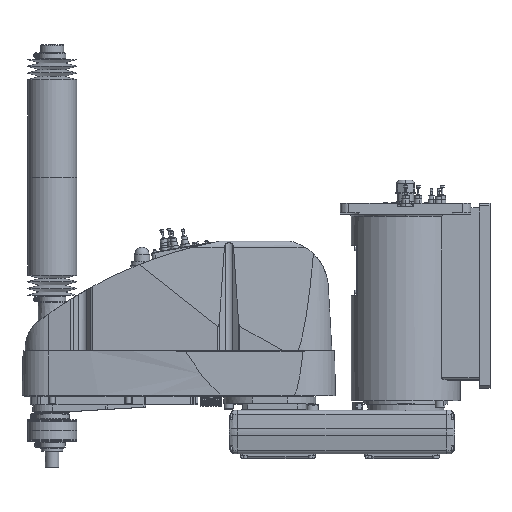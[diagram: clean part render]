
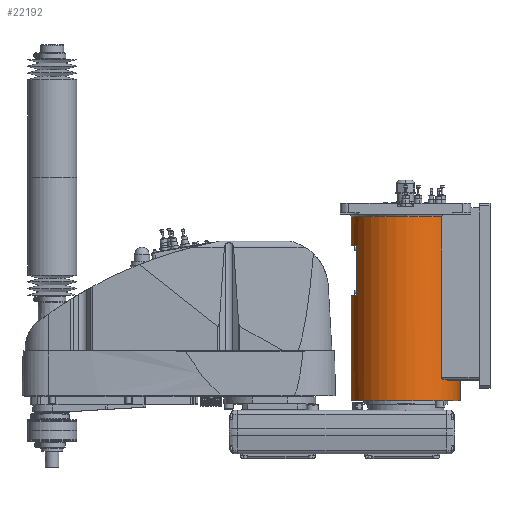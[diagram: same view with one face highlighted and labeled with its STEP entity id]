
A CAD part, top view. The second image highlights one B-rep face of the part: STEP entity #22192.
In plain terms, the highlighted cylindrical face has radius 100 mm (diameter 200 mm), a partial arc.
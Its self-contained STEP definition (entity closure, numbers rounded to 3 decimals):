
#12452 = VERTEX_POINT( '', #35415 );
#14058 = EDGE_CURVE( '', #16432, #31578, #37195, .T. );
#14312 = VERTEX_POINT( '', #37473 );
#15484 = EDGE_CURVE( '', #28358, #15954, #38775, .T. );
#15506 = EDGE_CURVE( '', #18854, #22728, #38799, .T. );
#15954 = VERTEX_POINT( '', #39314 );
#16432 = VERTEX_POINT( '', #39854 );
#16932 = VERTEX_POINT( '', #40404 );
#17546 = EDGE_CURVE( '', #22728, #27042, #41098, .T. );
#17678 = VERTEX_POINT( '', #41245 );
#18854 = VERTEX_POINT( '', #42556 );
#18880 = EDGE_CURVE( '', #24224, #12452, #42585, .T. );
#19720 = EDGE_CURVE( '', #33100, #14312, #43521, .T. );
#22192 = ADVANCED_FACE( '', ( #46298 ), #46299, .T. );
#22570 = EDGE_CURVE( '', #15954, #16432, #46725, .T. );
#22728 = VERTEX_POINT( '', #46901 );
#24156 = VERTEX_POINT( '', #48470 );
#24224 = VERTEX_POINT( '', #48547 );
#24778 = EDGE_CURVE( '', #12452, #30584, #49160, .T. );
#25460 = EDGE_CURVE( '', #26410, #16932, #49910, .T. );
#25656 = EDGE_CURVE( '', #30584, #26410, #50131, .T. );
#25912 = EDGE_CURVE( '', #24156, #28358, #50404, .T. );
#26410 = VERTEX_POINT( '', #50962 );
#27042 = VERTEX_POINT( '', #51674 );
#28252 = EDGE_CURVE( '', #31578, #17678, #53005, .T. );
#28358 = VERTEX_POINT( '', #53125 );
#28896 = EDGE_CURVE( '', #18854, #33100, #53716, .T. );
#29534 = EDGE_CURVE( '', #16932, #14312, #54424, .T. );
#30104 = EDGE_CURVE( '', #17678, #24224, #55053, .T. );
#30584 = VERTEX_POINT( '', #55588 );
#31578 = VERTEX_POINT( '', #56726 );
#33100 = VERTEX_POINT( '', #58450 );
#33114 = EDGE_CURVE( '', #27042, #24156, #58465, .T. );
#35415 = CARTESIAN_POINT( '', ( 75.993, 62., 65. ) );
#37195 = LINE( '', #63919, #63920 );
#37473 = CARTESIAN_POINT( '', ( 66.144, 363., 75. ) );
#38775 = LINE( '', #66240, #66241 );
#38799 = LINE( '', #66286, #66287 );
#39314 = CARTESIAN_POINT( '', ( -100., 25., 0. ) );
#39854 = CARTESIAN_POINT( '', ( 100., 25., 0. ) );
#40404 = CARTESIAN_POINT( '', ( 66.144, 68., 75. ) );
#41098 = CIRCLE( '', #69565, 100. );
#41245 = CARTESIAN_POINT( '', ( 89.303, 64., 45. ) );
#42556 = CARTESIAN_POINT( '', ( -100., 363., 0. ) );
#42585 = CIRCLE( '', #71672, 100. );
#43521 = CIRCLE( '', #73007, 100. );
#46298 = FACE_OUTER_BOUND( '', #77071, .T. );
#46299 = CYLINDRICAL_SURFACE( '', #77072, 100. );
#46725 = CIRCLE( '', #77691, 100. );
#46901 = CARTESIAN_POINT( '', ( -100., 311.3, 0. ) );
#48470 = CARTESIAN_POINT( '', ( -88., 218.3, 47.497 ) );
#48547 = CARTESIAN_POINT( '', ( 89.303, 62., 45. ) );
#49160 = LINE( '', #81334, #81335 );
#49910 = B_SPLINE_CURVE_WITH_KNOTS( '', 3, ( #82481, #82482, #82483, #82484, #82485, #82486, #82487, #82488, #82489, #82490, #82491, #82492, #82493, #82494, #82495, #82496, #82497, #82498 ), .UNSPECIFIED., .F., .F., ( 4, 2, 2, 2, 2, 2, 2, 2, 4 ), ( 7.241, 8.361, 9.482, 10.602, 11.722, 12.472, 13.222, 13.972, 14.722 ), .UNSPECIFIED. );
#50131 = CIRCLE( '', #82801, 100. );
#50404 = CIRCLE( '', #83202, 100. );
#50962 = CARTESIAN_POINT( '', ( 70.42, 64., 71. ) );
#51674 = CARTESIAN_POINT( '', ( -88., 311.3, 47.497 ) );
#53005 = CIRCLE( '', #86885, 100. );
#53125 = CARTESIAN_POINT( '', ( -100., 218.3, 0. ) );
#53716 = CIRCLE( '', #87906, 100. );
#54424 = LINE( '', #88876, #88877 );
#55053 = LINE( '', #89815, #89816 );
#55588 = CARTESIAN_POINT( '', ( 75.993, 64., 65. ) );
#56726 = CARTESIAN_POINT( '', ( 100., 64., 0. ) );
#58450 = CARTESIAN_POINT( '', ( 0., 363., 100. ) );
#58465 = LINE( '', #94812, #94813 );
#63919 = CARTESIAN_POINT( '', ( 100., 194., 0. ) );
#63920 = VECTOR( '', #100082, 1. );
#66240 = CARTESIAN_POINT( '', ( -100., 194., 0. ) );
#66241 = VECTOR( '', #101817, 1. );
#66286 = CARTESIAN_POINT( '', ( -100., 194., 0. ) );
#66287 = VECTOR( '', #101843, 1. );
#69565 = AXIS2_PLACEMENT_3D( '', #104478, #104479, #104480 );
#71672 = AXIS2_PLACEMENT_3D( '', #106236, #106237, #106238 );
#73007 = AXIS2_PLACEMENT_3D( '', #107377, #107378, #107379 );
#77071 = EDGE_LOOP( '', ( #110794, #110795, #110796, #110797, #110798, #110799, #110800, #110801, #110802, #110803, #110804, #110805, #110806, #110807, #110808, #110809 ) );
#77072 = AXIS2_PLACEMENT_3D( '', #110810, #110811, #110812 );
#77691 = AXIS2_PLACEMENT_3D( '', #111334, #111335, #111336 );
#81334 = CARTESIAN_POINT( '', ( 75.993, 63., 65. ) );
#81335 = VECTOR( '', #114027, 1. );
#82481 = CARTESIAN_POINT( '', ( 70.42, 64., 71. ) );
#82482 = CARTESIAN_POINT( '', ( 70.155, 64., 71.263 ) );
#82483 = CARTESIAN_POINT( '', ( 69.877, 64.026, 71.535 ) );
#82484 = CARTESIAN_POINT( '', ( 69.316, 64.139, 72.08 ) );
#82485 = CARTESIAN_POINT( '', ( 69.031, 64.224, 72.352 ) );
#82486 = CARTESIAN_POINT( '', ( 68.475, 64.457, 72.879 ) );
#82487 = CARTESIAN_POINT( '', ( 68.203, 64.604, 73.134 ) );
#82488 = CARTESIAN_POINT( '', ( 67.688, 64.954, 73.61 ) );
#82489 = CARTESIAN_POINT( '', ( 67.446, 65.158, 73.831 ) );
#82490 = CARTESIAN_POINT( '', ( 67.082, 65.542, 74.162 ) );
#82491 = CARTESIAN_POINT( '', ( 66.938, 65.716, 74.292 ) );
#82492 = CARTESIAN_POINT( '', ( 66.674, 66.103, 74.529 ) );
#82493 = CARTESIAN_POINT( '', ( 66.555, 66.315, 74.636 ) );
#82494 = CARTESIAN_POINT( '', ( 66.356, 66.766, 74.812 ) );
#82495 = CARTESIAN_POINT( '', ( 66.277, 67.005, 74.882 ) );
#82496 = CARTESIAN_POINT( '', ( 66.171, 67.497, 74.976 ) );
#82497 = CARTESIAN_POINT( '', ( 66.144, 67.75, 75. ) );
#82498 = CARTESIAN_POINT( '', ( 66.144, 68., 75. ) );
#82801 = AXIS2_PLACEMENT_3D( '', #115136, #115137, #115138 );
#83202 = AXIS2_PLACEMENT_3D( '', #115387, #115388, #115389 );
#86885 = AXIS2_PLACEMENT_3D( '', #118380, #118381, #118382 );
#87906 = AXIS2_PLACEMENT_3D( '', #119142, #119143, #119144 );
#88876 = CARTESIAN_POINT( '', ( 66.144, 215.5, 75. ) );
#88877 = VECTOR( '', #119926, 1. );
#89815 = CARTESIAN_POINT( '', ( 89.303, 63., 45. ) );
#89816 = VECTOR( '', #120624, 1. );
#94812 = CARTESIAN_POINT( '', ( -88., 264.8, 47.497 ) );
#94813 = VECTOR( '', #124753, 1. );
#100082 = DIRECTION( '', ( 0., 1., 0. ) );
#101817 = DIRECTION( '', ( 0., -1., 0. ) );
#101843 = DIRECTION( '', ( 0., -1., 0. ) );
#104478 = CARTESIAN_POINT( '', ( 0., 311.3, 0. ) );
#104479 = DIRECTION( '', ( 0., 1., 0. ) );
#104480 = DIRECTION( '', ( 1., 0., 0. ) );
#106236 = CARTESIAN_POINT( '', ( 0., 62., 0. ) );
#106237 = DIRECTION( '', ( 0., -1., 0. ) );
#106238 = DIRECTION( '', ( 1., 0., 0. ) );
#107377 = CARTESIAN_POINT( '', ( 0., 363., 0. ) );
#107378 = DIRECTION( '', ( 0., 1., 0. ) );
#107379 = DIRECTION( '', ( 1., 0., 0. ) );
#110794 = ORIENTED_EDGE( '', *, *, #14058, .T. );
#110795 = ORIENTED_EDGE( '', *, *, #28252, .T. );
#110796 = ORIENTED_EDGE( '', *, *, #30104, .T. );
#110797 = ORIENTED_EDGE( '', *, *, #18880, .T. );
#110798 = ORIENTED_EDGE( '', *, *, #24778, .T. );
#110799 = ORIENTED_EDGE( '', *, *, #25656, .T. );
#110800 = ORIENTED_EDGE( '', *, *, #25460, .T. );
#110801 = ORIENTED_EDGE( '', *, *, #29534, .T. );
#110802 = ORIENTED_EDGE( '', *, *, #19720, .F. );
#110803 = ORIENTED_EDGE( '', *, *, #28896, .F. );
#110804 = ORIENTED_EDGE( '', *, *, #15506, .T. );
#110805 = ORIENTED_EDGE( '', *, *, #17546, .T. );
#110806 = ORIENTED_EDGE( '', *, *, #33114, .T. );
#110807 = ORIENTED_EDGE( '', *, *, #25912, .T. );
#110808 = ORIENTED_EDGE( '', *, *, #15484, .T. );
#110809 = ORIENTED_EDGE( '', *, *, #22570, .T. );
#110810 = CARTESIAN_POINT( '', ( 0., 194., 0. ) );
#110811 = DIRECTION( '', ( 0., -1., 0. ) );
#110812 = DIRECTION( '', ( 1., 0., 0. ) );
#111334 = CARTESIAN_POINT( '', ( 0., 25., 0. ) );
#111335 = DIRECTION( '', ( 0., 1., 0. ) );
#111336 = DIRECTION( '', ( 1., 0., 0. ) );
#114027 = DIRECTION( '', ( 0., 1., 0. ) );
#115136 = CARTESIAN_POINT( '', ( 0., 64., 0. ) );
#115137 = DIRECTION( '', ( 0., -1., 0. ) );
#115138 = DIRECTION( '', ( 1., 0., 0. ) );
#115387 = CARTESIAN_POINT( '', ( 0., 218.3, 0. ) );
#115388 = DIRECTION( '', ( 0., -1., 0. ) );
#115389 = DIRECTION( '', ( 1., 0., 0. ) );
#118380 = CARTESIAN_POINT( '', ( 0., 64., 0. ) );
#118381 = DIRECTION( '', ( 0., -1., 0. ) );
#118382 = DIRECTION( '', ( 1., 0., 0. ) );
#119142 = CARTESIAN_POINT( '', ( 0., 363., 0. ) );
#119143 = DIRECTION( '', ( 0., 1., 0. ) );
#119144 = DIRECTION( '', ( 1., 0., 0. ) );
#119926 = DIRECTION( '', ( 0., 1., 0. ) );
#120624 = DIRECTION( '', ( 0., -1., 0. ) );
#124753 = DIRECTION( '', ( 0., -1., 0. ) );
